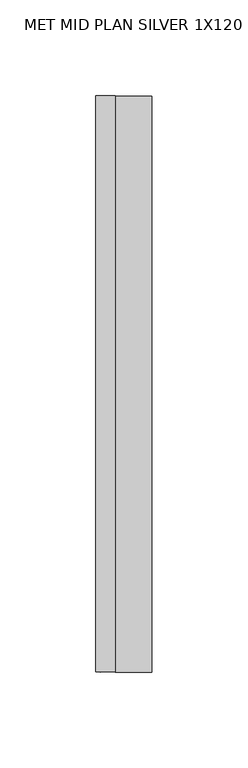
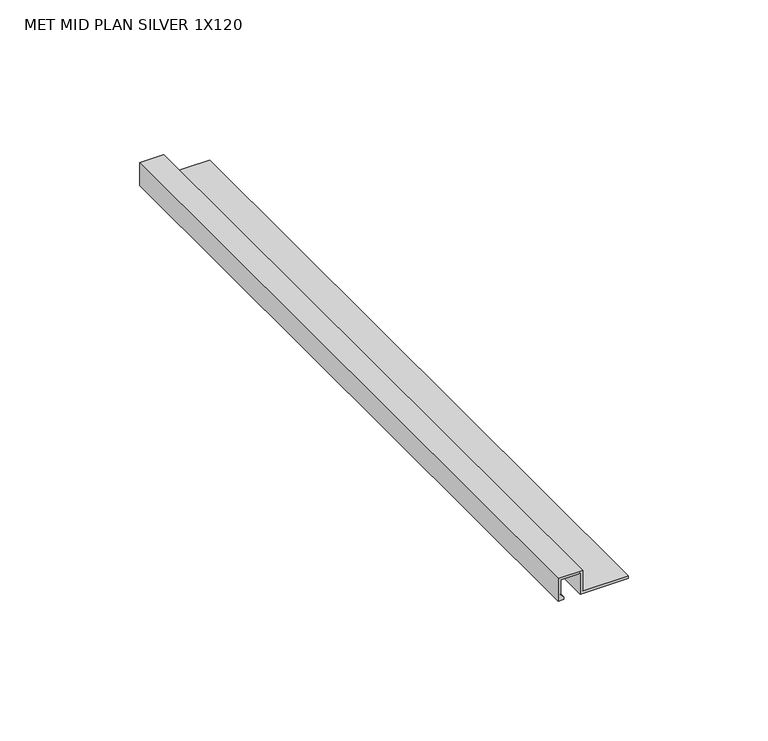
"""IFC4 building model written with IfcOpenShell, lengths in millimetres: proxy geometry, PORTOBELLO - METALLICA MET PLAN : MET MID PLAN SILVER 1X120."""

from ifc_helpers import new_model, si_unit, frame, origin, place, context, project, spatial, polyline, outline, extrude, source, transform, mapped, element, save


def met_mid_plan_silver_1x120_49bd4cae(model_context):
    return source(origin(), model_context, "Body", "SweptSolid", [
        extrude(outline(polyline([(1.0, -5.0), (-9.0, -5.0), (-9.0, -2.7289948), (-7.7920635, -2.7289948), (-6.5210583, -4.0), (0.0, -4.0), (0.0, 4.0), (-9.0, 4.0), (-9.0, 23.9106111), (-8.0, 23.9106111), (-8.0, 5.0), (1.0, 5.0), (1.0, -5.0)])), frame((0.0, 300.0, 0.0), z_axis=(0.0, 1.0, 0.0), x_axis=(0.0, 0.0, 1.0)), (0.0, 0.0, 1.0), 300.0),
    ])


if __name__ == "__main__":
    model = new_model("IFC4")
    model_context = context("Model", 3, world=origin())
    ifc_project = project(units=[si_unit("LENGTHUNIT", "METRE", prefix="MILLI")], contexts=[model_context])
    site = spatial("IfcSite", under=ifc_project)
    building = spatial("IfcBuilding", under=site)
    placement = place(None, origin())
    met_mid_plan_silver_1x120_shape = met_mid_plan_silver_1x120_49bd4cae(model_context)
    element("IfcBuildingElementProxy", 1, Name="PORTOBELLO - METALLICA MET PLAN : MET MID PLAN SILVER 1X120", ObjectType="PORTOBELLO - METALLICA MET PLAN : MET MID PLAN SILVER 1X120", at=placement, inside=building, context=model_context, shape_type="MappedRepresentation", body=[
        mapped(met_mid_plan_silver_1x120_shape, transform((0.0, 0.0, 0.0), x_axis=(1.0, 0.0, 0.0), y_axis=(0.0, 1.0, 0.0), z_axis=(0.0, 0.0, 1.0))),
    ])
    save(model, "model.ifc")
